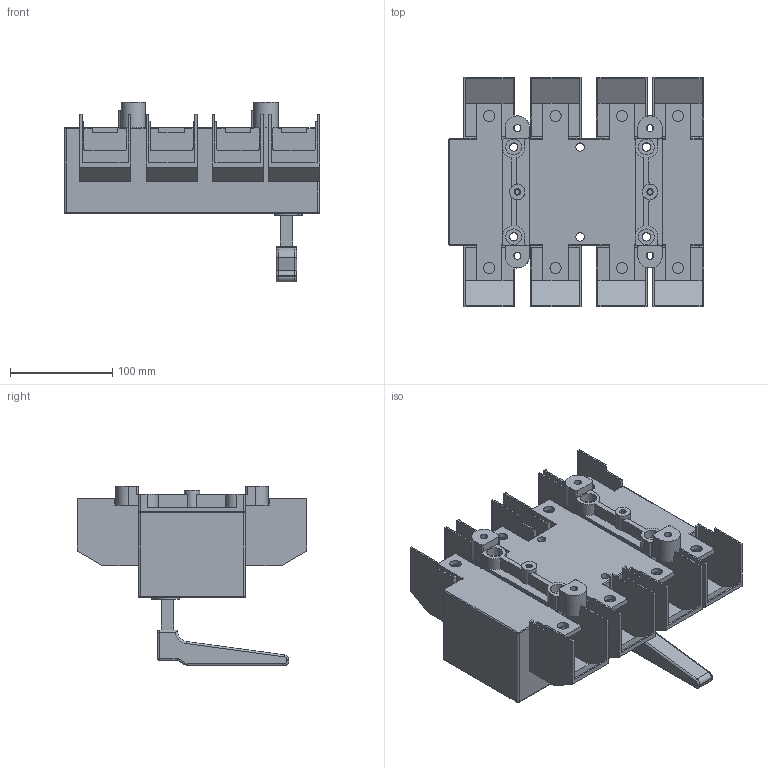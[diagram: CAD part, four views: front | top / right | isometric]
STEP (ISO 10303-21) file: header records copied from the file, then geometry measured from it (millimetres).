
FILE_DESCRIPTION(/* description */ (''),/* implementation_level */ '2;1');
FILE_NAME(/* name */ 'RA630 P3 N-R z oslona zaciskow.stp',/* time_stamp */ '2021-08-19T07:43:04+02:00',/* author */ (''),/* organization */ (''),/* preprocessor_version */ 'ST-DEVELOPER v18.1',/* originating_system */ 'SIEMENS PLM Software NX 1965',/* authorisation */ '');
FILE_SCHEMA (('AUTOMOTIVE_DESIGN { 1 0 10303 214 3 1 1 1 }'));
Length unit declared in the file: millimetre
Products named in the file (1): RA630 P3 N-R z oslona zaciskow_stp
Bounding box: 250 x 225 x 176 mm (x, y, z)
Volume: 2487201.9 mm3; surface area: 346086.9 mm2
Topology: 1 solids, 1 shells, 480 faces, 1385 edges, 896 vertices
Faces by surface type: plane 329, cylinder 129, torus 13, sphere 6, bspline 3
Full cylindrical faces by diameter (mm): 4.8 x2, 6.2 x2, 7 x4, 8.2 x6, 11 x8, 14 x4, 15 x2, 15.5 x4
Entity records: 15474 total; most frequent: CARTESIAN_POINT 2769, ORIENTED_EDGE 2662, DIRECTION 2593, EDGE_CURVE 1331, LINE 1017, VECTOR 1017, VERTEX_POINT 880, AXIS2_PLACEMENT_3D 788
